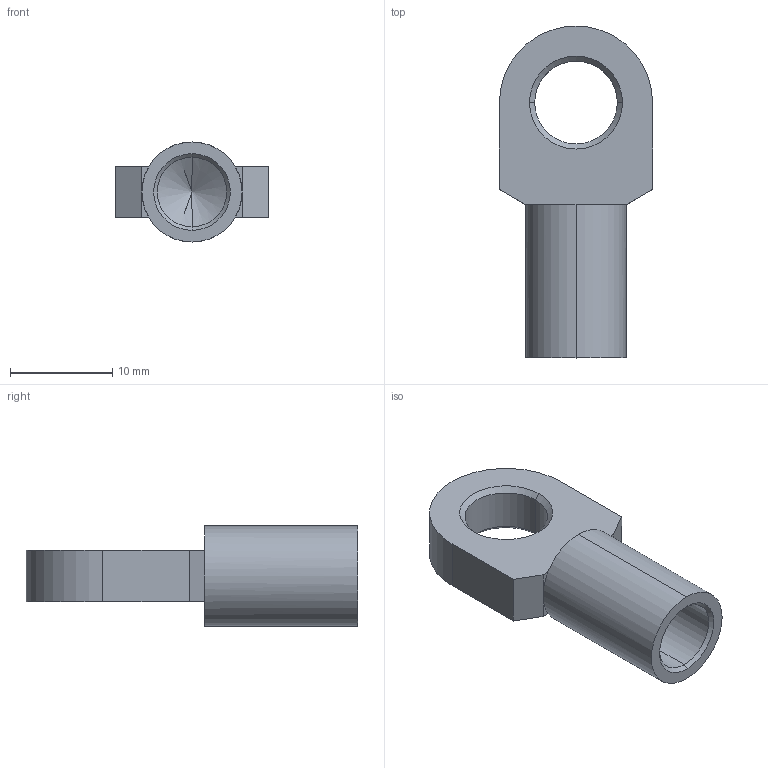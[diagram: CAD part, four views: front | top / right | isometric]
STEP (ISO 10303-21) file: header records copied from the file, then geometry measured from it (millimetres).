
FILE_DESCRIPTION (( 'STEP AP214' ), '1' );
FILE_NAME ('18.08E2STL25.STEP', '2017-11-14T10:03:31', ( '' ), ( '' ), 'SwSTEP 2.0', 'SolidWorks 2016', '' );
FILE_SCHEMA (( 'AUTOMOTIVE_DESIGN' ));
Length unit declared in the file: millimetre
Products named in the file (1): 18.08E2STL25
Bounding box: 15 x 32.5 x 9.8 mm (x, y, z)
Volume: 1613.9 mm3; surface area: 1516.6 mm2
Topology: 1 solids, 1 shells, 28 faces, 64 edges, 37 vertices
Faces by surface type: plane 13, cone 8, cylinder 7
Entity records: 806 total; most frequent: DIRECTION 146, CARTESIAN_POINT 128, ORIENTED_EDGE 124, EDGE_CURVE 62, AXIS2_PLACEMENT_3D 55, VERTEX_POINT 37, VECTOR 36, LINE 36
